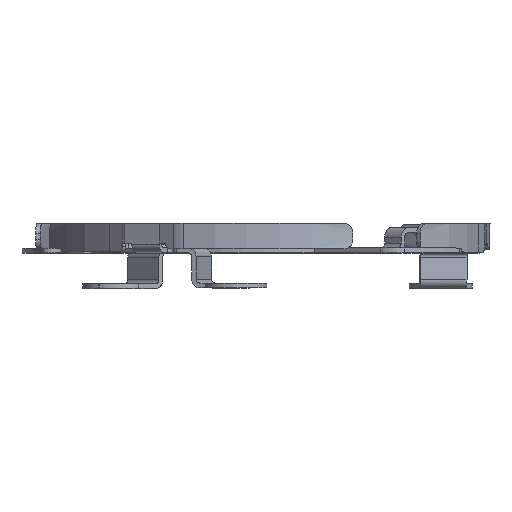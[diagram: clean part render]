
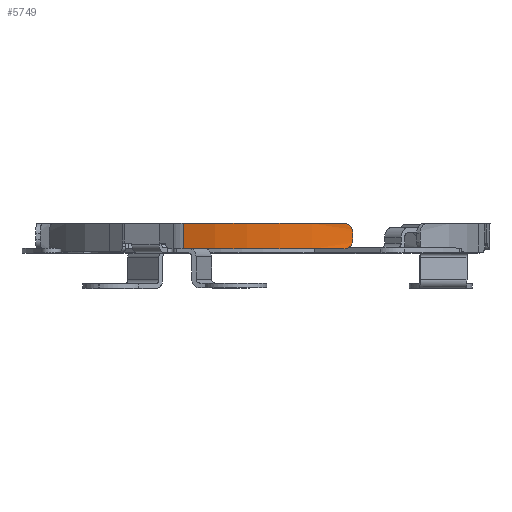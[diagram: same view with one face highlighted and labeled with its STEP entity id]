
A CAD part, top view. The second image highlights one B-rep face of the part: STEP entity #5749.
In plain terms, the highlighted cylindrical face has radius 23.5 mm (diameter 47 mm), a partial arc.
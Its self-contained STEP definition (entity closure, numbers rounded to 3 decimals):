
#613=CARTESIAN_POINT('',(0.,3.,0.));
#614=DIRECTION('',(0.,-1.,0.));
#615=DIRECTION('',(0.351,0.,0.936));
#616=AXIS2_PLACEMENT_3D('',#613,#614,#615);
#730=CARTESIAN_POINT('',(0.,0.4,0.));
#731=DIRECTION('',(0.,1.,0.));
#732=DIRECTION('',(-0.349,0.,0.937));
#733=AXIS2_PLACEMENT_3D('',#730,#731,#732);
#757=CARTESIAN_POINT('',(8.253,3.,22.003));
#758=CARTESIAN_POINT('',(8.337,3.,21.972));
#759=CARTESIAN_POINT('',(8.498,2.977,21.91));
#760=CARTESIAN_POINT('',(8.729,2.874,21.819));
#761=CARTESIAN_POINT('',(8.92,2.714,21.742));
#762=CARTESIAN_POINT('',(9.067,2.508,21.681));
#763=CARTESIAN_POINT('',(9.161,2.26,21.641));
#764=CARTESIAN_POINT('',(9.182,2.089,21.632));
#765=CARTESIAN_POINT('',(9.182,2.,21.632));
#767=DIRECTION('',(0.,-1.,0.));
#768=VECTOR('',#767,0.6);
#769=CARTESIAN_POINT('',(9.182,2.,21.632));
#770=LINE('',#769,#768);
#771=CARTESIAN_POINT('',(9.182,1.4,21.632));
#772=CARTESIAN_POINT('',(9.182,1.311,21.632));
#773=CARTESIAN_POINT('',(9.161,1.139,21.641));
#774=CARTESIAN_POINT('',(9.066,0.891,21.681));
#775=CARTESIAN_POINT('',(8.919,0.684,21.742));
#776=CARTESIAN_POINT('',(8.727,0.525,21.82));
#777=CARTESIAN_POINT('',(8.497,0.423,21.911));
#778=CARTESIAN_POINT('',(8.337,0.4,21.972));
#779=CARTESIAN_POINT('',(8.253,0.4,22.003));
#781=DIRECTION('',(0.,1.,0.));
#782=VECTOR('',#781,2.6);
#783=CARTESIAN_POINT('',(-8.206,0.4,22.021));
#784=LINE('',#783,#782);
#4554=CARTESIAN_POINT('',(8.253,3.,22.003));
#4556=VERTEX_POINT('',#4554);
#4557=CARTESIAN_POINT('',(-8.206,3.,22.021));
#4558=VERTEX_POINT('',#4557);
#4566=CARTESIAN_POINT('',(9.182,2.,21.632));
#4567=VERTEX_POINT('',#4566);
#4573=CARTESIAN_POINT('',(-8.206,0.4,22.021));
#4574=VERTEX_POINT('',#4573);
#4575=CARTESIAN_POINT('',(8.253,0.4,22.003));
#4576=VERTEX_POINT('',#4575);
#4577=CARTESIAN_POINT('',(9.182,1.4,21.632));
#4578=VERTEX_POINT('',#4577);
#5734=CARTESIAN_POINT('',(0.,3.,0.));
#5735=DIRECTION('',(0.,1.,0.));
#5736=DIRECTION('',(1.,0.,0.));
#5737=AXIS2_PLACEMENT_3D('',#5734,#5735,#5736);
#5738=CYLINDRICAL_SURFACE('',#5737,23.5);
#5739=ORIENTED_EDGE('',*,*,#5665,.T.);
#5741=ORIENTED_EDGE('',*,*,#5740,.T.);
#5743=ORIENTED_EDGE('',*,*,#5742,.T.);
#5744=ORIENTED_EDGE('',*,*,#5711,.F.);
#5745=ORIENTED_EDGE('',*,*,#5726,.T.);
#5746=ORIENTED_EDGE('',*,*,#5630,.F.);
#5747=EDGE_LOOP('',(#5739,#5741,#5743,#5744,#5745,#5746));
#5748=FACE_OUTER_BOUND('',#5747,.F.);
#5749=ADVANCED_FACE('',(#5748),#5738,.T.);
#617=CIRCLE('',#616,23.5);
#734=CIRCLE('',#733,23.5);
#766=B_SPLINE_CURVE_WITH_KNOTS('',3,(#757,#758,#759,#760,#761,#762,#763,#764,
#765),.UNSPECIFIED.,.F.,.F.,(4,1,1,1,1,1,4),(0.,0.167,
0.333,0.5,0.667,0.833,1.),
.UNSPECIFIED.);
#780=B_SPLINE_CURVE_WITH_KNOTS('',3,(#771,#772,#773,#774,#775,#776,#777,#778,
#779),.UNSPECIFIED.,.F.,.F.,(4,1,1,1,1,1,4),(0.,0.167,
0.333,0.5,0.667,0.833,1.),
.UNSPECIFIED.);
#5630=EDGE_CURVE('',#4556,#4558,#617,.T.);
#5665=EDGE_CURVE('',#4556,#4567,#766,.T.);
#5711=EDGE_CURVE('',#4574,#4576,#734,.T.);
#5726=EDGE_CURVE('',#4574,#4558,#784,.T.);
#5740=EDGE_CURVE('',#4567,#4578,#770,.T.);
#5742=EDGE_CURVE('',#4578,#4576,#780,.T.);
